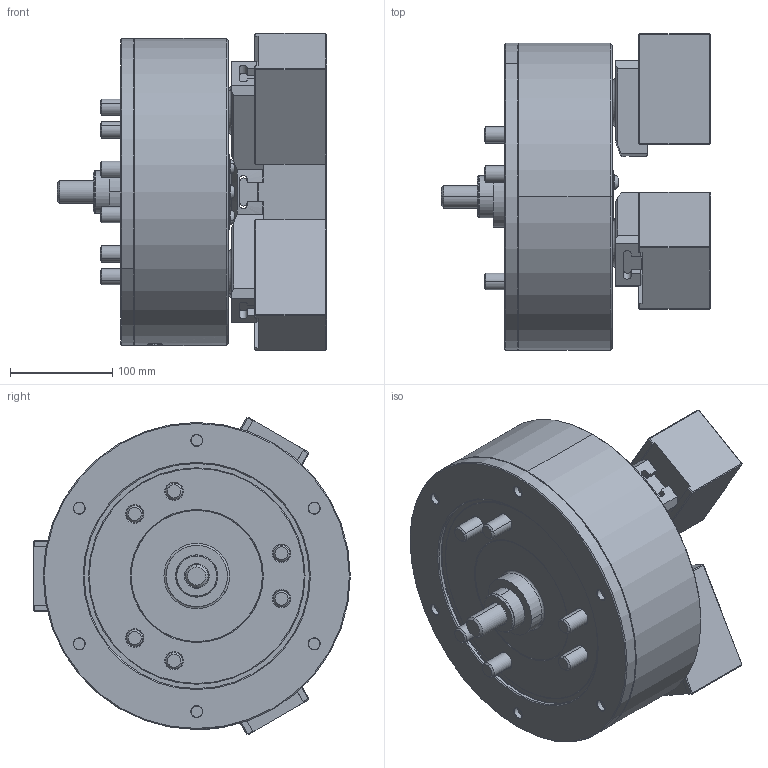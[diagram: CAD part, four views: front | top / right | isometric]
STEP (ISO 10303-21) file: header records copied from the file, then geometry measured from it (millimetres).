
FILE_DESCRIPTION (( 'STEP AP214' ), '1' );
FILE_NAME ('PW-12_CL_ID.STEP', '2019-10-08T06:44:01', ( '' ), ( '' ), 'SwSTEP 2.0', 'SolidWorks 2017', '' );
FILE_SCHEMA (( 'AUTOMOTIVE_DESIGN' ));
Length unit declared in the file: millimetre
Products named in the file (5): 結合_ID; 0030116025; 61P420193; 61P323264; PW-12_CL_ID
Assembly tree (13 placements, depth 2):
  PW-12_CL_ID
    61P323264  x3
    61P420193  x3
    0030116025  x6
    結合_ID
Bounding box: 262.8 x 309.28 x 309.92 mm (x, y, z)
Volume: 9038092.2 mm3; surface area: 606727.8 mm2
Topology: 13 solids, 14 shells, 1755 faces, 4243 edges, 2638 vertices
Faces by surface type: plane 903, cone 326, cylinder 281, bspline 185, torus 60
Entity records: 51447 total; most frequent: CARTESIAN_POINT 18053, ORIENTED_EDGE 7162, DIRECTION 6285, EDGE_CURVE 3581, VERTEX_POINT 2263, AXIS2_PLACEMENT_3D 2135, VECTOR 2015, LINE 2015
